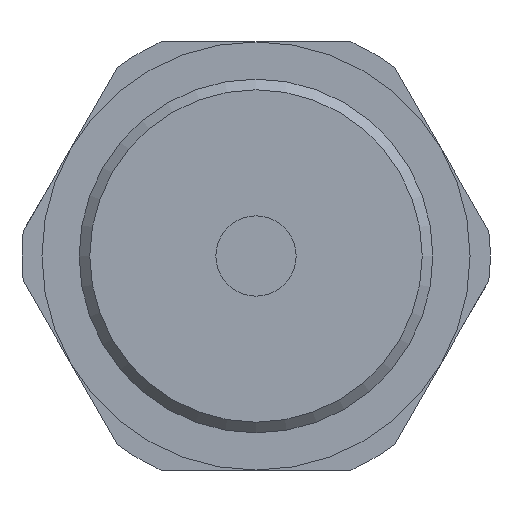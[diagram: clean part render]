
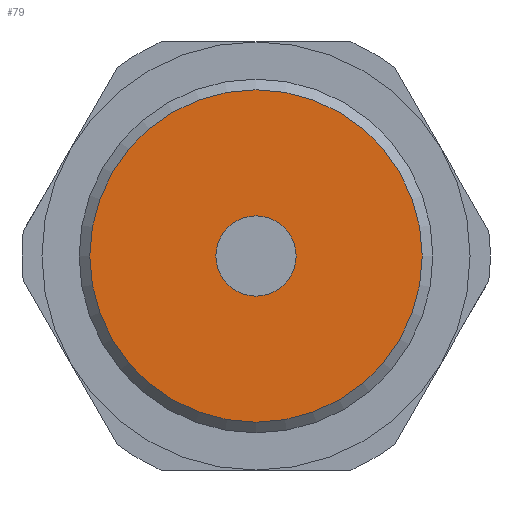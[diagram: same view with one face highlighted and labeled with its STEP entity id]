
A CAD part, front view. The second image highlights one B-rep face of the part: STEP entity #79.
In plain terms, the highlighted planar face has unit normal (0, -1, 0).
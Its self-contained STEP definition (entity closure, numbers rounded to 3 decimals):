
#79 = ADVANCED_FACE( '', ( #122, #123 ), #124, .F. );
#122 = FACE_BOUND( '', #207, .T. );
#123 = FACE_OUTER_BOUND( '', #208, .T. );
#124 = PLANE( '', #209 );
#207 = EDGE_LOOP( '', ( #308 ) );
#208 = EDGE_LOOP( '', ( #309 ) );
#209 = AXIS2_PLACEMENT_3D( '', #310, #311, #312 );
#308 = ORIENTED_EDGE( '', *, *, #546, .F. );
#309 = ORIENTED_EDGE( '', *, *, #547, .T. );
#310 = CARTESIAN_POINT( '', ( 12.421, -8., 0. ) );
#311 = DIRECTION( '', ( 0., 1., 0. ) );
#312 = DIRECTION( '', ( -1., 0., 0. ) );
#546 = EDGE_CURVE( '', #626, #626, #627, .T. );
#547 = EDGE_CURVE( '', #628, #628, #629, .T. );
#626 = VERTEX_POINT( '', #759 );
#627 = CIRCLE( '', #760, 3. );
#628 = VERTEX_POINT( '', #761 );
#629 = CIRCLE( '', #762, 12.421 );
#759 = CARTESIAN_POINT( '', ( 3., -8., 0. ) );
#760 = AXIS2_PLACEMENT_3D( '', #941, #942, #943 );
#761 = CARTESIAN_POINT( '', ( 12.421, -8., 0. ) );
#762 = AXIS2_PLACEMENT_3D( '', #944, #945, #946 );
#941 = CARTESIAN_POINT( '', ( 0., -8., 0. ) );
#942 = DIRECTION( '', ( 0., -1., 0. ) );
#943 = DIRECTION( '', ( 1., 0., 0. ) );
#944 = CARTESIAN_POINT( '', ( 0., -8., 0. ) );
#945 = DIRECTION( '', ( 0., -1., 0. ) );
#946 = DIRECTION( '', ( 1., 0., 0. ) );
